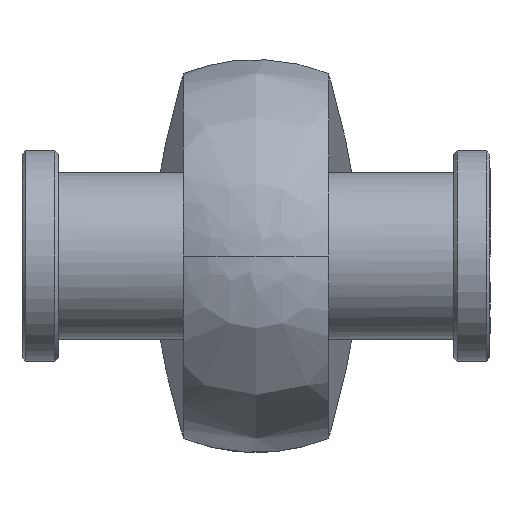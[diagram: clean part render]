
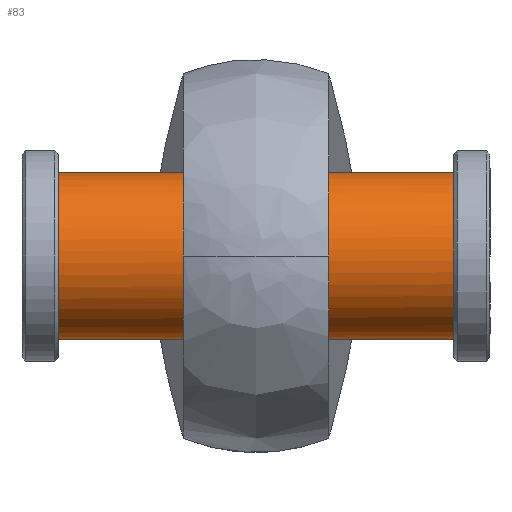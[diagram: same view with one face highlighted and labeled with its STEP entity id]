
A CAD part, left-side view. The second image highlights one B-rep face of the part: STEP entity #83.
In plain terms, the highlighted cylindrical face has radius 11.5 mm (diameter 23 mm), a full revolution.
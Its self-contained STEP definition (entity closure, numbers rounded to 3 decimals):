
#83=ADVANCED_FACE('',(#157),#1214,.T.);
#157=FACE_OUTER_BOUND('',#238,.T.);
#238=EDGE_LOOP('',(#506,#507,#508,#509));
#506=ORIENTED_EDGE('',*,*,#774,.T.);
#507=ORIENTED_EDGE('',*,*,#776,.T.);
#508=ORIENTED_EDGE('',*,*,#775,.T.);
#509=ORIENTED_EDGE('',*,*,#776,.F.);
#774=EDGE_CURVE('',#1128,#1128,#983,.T.);
#775=EDGE_CURVE('',#1129,#1129,#984,.T.);
#776=EDGE_CURVE('',#1128,#1129,#897,.T.);
#897=B_SPLINE_CURVE_WITH_KNOTS('',1,(#2248,#2249),.UNSPECIFIED.,.F.,.F.,
(2,2),(5.554,59.889),.UNSPECIFIED.);
#983=(
BOUNDED_CURVE()
B_SPLINE_CURVE(2,(#2230,#2231,#2232,#2233,#2234,#2235,#2236,#2237,#2238),
 .UNSPECIFIED.,.T.,.F.)
B_SPLINE_CURVE_WITH_KNOTS((3,2,2,2,3),(0.,18.064,36.128,
54.192,72.257),.UNSPECIFIED.)
CURVE()
GEOMETRIC_REPRESENTATION_ITEM()
RATIONAL_B_SPLINE_CURVE((1.,0.707,1.,0.707,1.,0.707,
1.,0.707,1.))
REPRESENTATION_ITEM('')
);
#984=(
BOUNDED_CURVE()
B_SPLINE_CURVE(2,(#2239,#2240,#2241,#2242,#2243,#2244,#2245,#2246,#2247),
 .UNSPECIFIED.,.T.,.F.)
B_SPLINE_CURVE_WITH_KNOTS((3,2,2,2,3),(0.,18.064,36.128,
54.192,72.257),.UNSPECIFIED.)
CURVE()
GEOMETRIC_REPRESENTATION_ITEM()
RATIONAL_B_SPLINE_CURVE((1.,0.707,1.,0.707,1.,0.707,
1.,0.707,1.))
REPRESENTATION_ITEM('')
);
#1128=VERTEX_POINT('',#2182);
#1129=VERTEX_POINT('',#2183);
#1214=CYLINDRICAL_SURFACE('',#1366,11.5);
#1366=AXIS2_PLACEMENT_3D('',#2172,#1412,$);
#1412=DIRECTION('',(0.,-1.,0.));
#2172=CARTESIAN_POINT('',(0.,0.,0.));
#2182=CARTESIAN_POINT('',(11.5,27.168,0.));
#2183=CARTESIAN_POINT('',(11.5,-27.168,0.));
#2230=CARTESIAN_POINT('',(11.5,27.168,0.));
#2231=CARTESIAN_POINT('',(11.5,27.168,11.5));
#2232=CARTESIAN_POINT('',(0.,27.168,11.5));
#2233=CARTESIAN_POINT('',(-11.5,27.168,11.5));
#2234=CARTESIAN_POINT('',(-11.5,27.168,0.));
#2235=CARTESIAN_POINT('',(-11.5,27.168,-11.5));
#2236=CARTESIAN_POINT('',(0.,27.168,-11.5));
#2237=CARTESIAN_POINT('',(11.5,27.168,-11.5));
#2238=CARTESIAN_POINT('',(11.5,27.168,0.));
#2239=CARTESIAN_POINT('',(11.5,-27.168,0.));
#2240=CARTESIAN_POINT('',(11.5,-27.168,-11.5));
#2241=CARTESIAN_POINT('',(0.,-27.168,-11.5));
#2242=CARTESIAN_POINT('',(-11.5,-27.168,-11.5));
#2243=CARTESIAN_POINT('',(-11.5,-27.168,0.));
#2244=CARTESIAN_POINT('',(-11.5,-27.168,11.5));
#2245=CARTESIAN_POINT('',(0.,-27.168,11.5));
#2246=CARTESIAN_POINT('',(11.5,-27.168,11.5));
#2247=CARTESIAN_POINT('',(11.5,-27.168,0.));
#2248=CARTESIAN_POINT('',(11.5,27.168,0.));
#2249=CARTESIAN_POINT('',(11.5,-27.168,0.));
